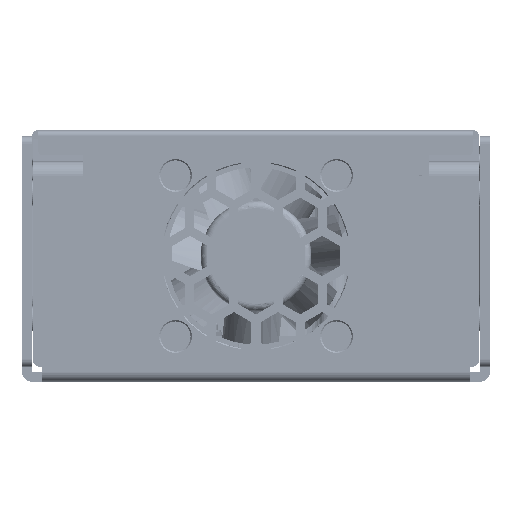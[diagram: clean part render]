
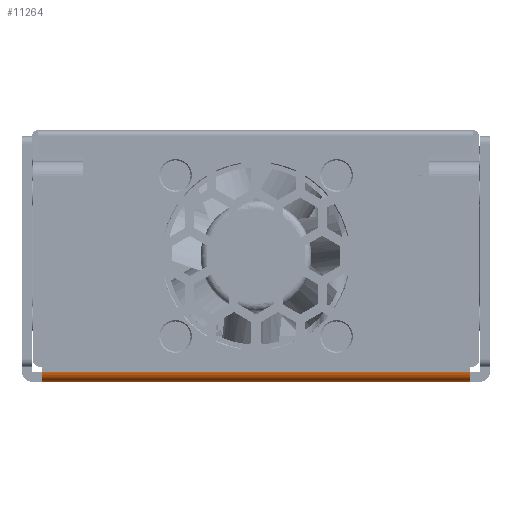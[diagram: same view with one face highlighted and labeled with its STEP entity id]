
A CAD part, left-side view. The second image highlights one B-rep face of the part: STEP entity #11264.
In plain terms, the highlighted cylindrical face has radius 2 mm (diameter 4 mm), a partial arc.
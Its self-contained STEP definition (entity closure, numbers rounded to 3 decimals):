
#2846=DIRECTION('',(0.,-1.,0.));
#2847=VECTOR('',#2846,85.);
#2848=CARTESIAN_POINT('',(2.,42.5,-2.));
#2849=LINE('',#2848,#2847);
#2850=CARTESIAN_POINT('',(2.,42.5,0.));
#2851=DIRECTION('',(0.,1.,0.));
#2852=DIRECTION('',(0.,0.,-1.));
#2853=AXIS2_PLACEMENT_3D('',#2850,#2851,#2852);
#2855=DIRECTION('',(0.,-1.,0.));
#2856=VECTOR('',#2855,85.);
#2857=CARTESIAN_POINT('',(0.,42.5,0.));
#2858=LINE('',#2857,#2856);
#2859=CARTESIAN_POINT('',(2.,-42.5,0.));
#2860=DIRECTION('',(0.,1.,0.));
#2861=DIRECTION('',(0.,0.,-1.));
#2862=AXIS2_PLACEMENT_3D('',#2859,#2860,#2861);
#6924=CARTESIAN_POINT('',(2.,-42.5,-2.));
#6925=VERTEX_POINT('',#6924);
#6926=CARTESIAN_POINT('',(2.,42.5,-2.));
#6928=VERTEX_POINT('',#6926);
#6940=CARTESIAN_POINT('',(0.,-42.5,0.));
#6942=VERTEX_POINT('',#6940);
#6944=CARTESIAN_POINT('',(0.,42.5,0.));
#6946=VERTEX_POINT('',#6944);
#11252=CARTESIAN_POINT('',(2.,44.4,0.));
#11253=DIRECTION('',(0.,-1.,0.));
#11254=DIRECTION('',(-1.,0.,0.));
#11255=AXIS2_PLACEMENT_3D('',#11252,#11253,#11254);
#11256=CYLINDRICAL_SURFACE('',#11255,2.);
#11257=ORIENTED_EDGE('',*,*,#8908,.F.);
#11258=ORIENTED_EDGE('',*,*,#10825,.T.);
#11260=ORIENTED_EDGE('',*,*,#11259,.T.);
#11261=ORIENTED_EDGE('',*,*,#11234,.F.);
#11262=EDGE_LOOP('',(#11257,#11258,#11260,#11261));
#11263=FACE_OUTER_BOUND('',#11262,.F.);
#2854=CIRCLE('',#2853,2.);
#2863=CIRCLE('',#2862,2.);
#8908=EDGE_CURVE('',#6928,#6925,#2849,.T.);
#10825=EDGE_CURVE('',#6928,#6946,#2854,.T.);
#11234=EDGE_CURVE('',#6925,#6942,#2863,.T.);
#11259=EDGE_CURVE('',#6946,#6942,#2858,.T.);
#11264=ADVANCED_FACE('',(#11263),#11256,.T.);
